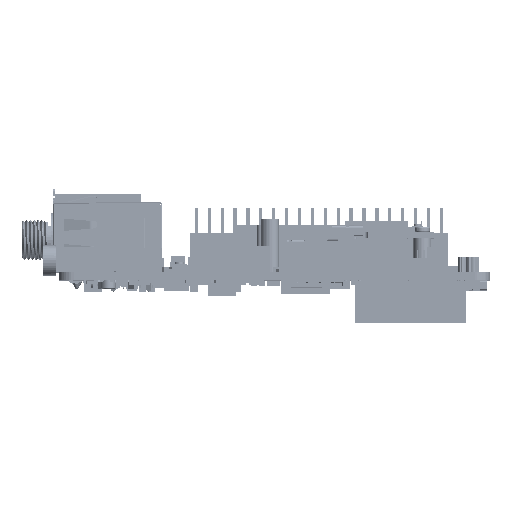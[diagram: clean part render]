
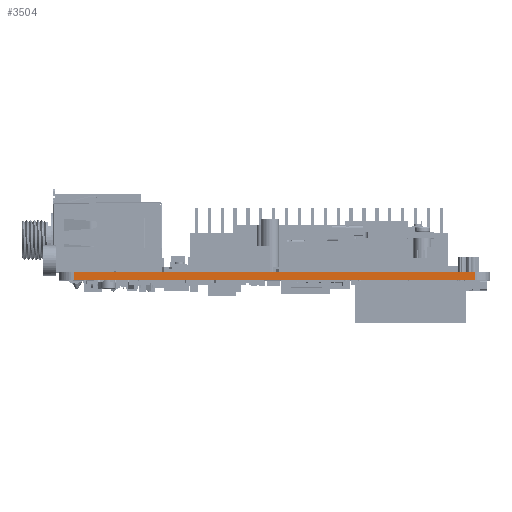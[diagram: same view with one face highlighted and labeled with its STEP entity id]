
A CAD part, top view. The second image highlights one B-rep face of the part: STEP entity #3504.
In plain terms, the highlighted planar face has unit normal (0, 0, 1).
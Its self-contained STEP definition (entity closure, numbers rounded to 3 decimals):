
#609=DIRECTION('',(1.,0.,0.));
#610=VECTOR('',#609,79.);
#611=CARTESIAN_POINT('',(-39.5,0.,62.5));
#612=LINE('',#611,#610);
#1235=DIRECTION('',(1.,0.,0.));
#1236=VECTOR('',#1235,79.);
#1237=CARTESIAN_POINT('',(-39.5,1.6,62.5));
#1238=LINE('',#1237,#1236);
#1754=DIRECTION('',(0.,-1.,0.));
#1755=VECTOR('',#1754,1.6);
#1756=CARTESIAN_POINT('',(-39.5,1.6,62.5));
#1757=LINE('',#1756,#1755);
#1761=DIRECTION('',(0.,-1.,0.));
#1762=VECTOR('',#1761,1.6);
#1763=CARTESIAN_POINT('',(39.5,1.6,62.5));
#1764=LINE('',#1763,#1762);
#2074=CARTESIAN_POINT('',(-39.5,0.,62.5));
#2075=VERTEX_POINT('',#2074);
#2076=CARTESIAN_POINT('',(-39.5,1.6,62.5));
#2077=VERTEX_POINT('',#2076);
#2079=CARTESIAN_POINT('',(39.5,0.,62.5));
#2081=VERTEX_POINT('',#2079);
#2082=CARTESIAN_POINT('',(39.5,1.6,62.5));
#2083=VERTEX_POINT('',#2082);
#3492=CARTESIAN_POINT('',(-42.5,0.,62.5));
#3493=DIRECTION('',(0.,0.,1.));
#3494=DIRECTION('',(1.,0.,0.));
#3495=AXIS2_PLACEMENT_3D('',#3492,#3493,#3494);
#3496=PLANE('',#3495);
#3498=ORIENTED_EDGE('',*,*,#3497,.F.);
#3499=ORIENTED_EDGE('',*,*,#2344,.T.);
#3500=ORIENTED_EDGE('',*,*,#3485,.T.);
#3501=ORIENTED_EDGE('',*,*,#2097,.F.);
#3502=EDGE_LOOP('',(#3498,#3499,#3500,#3501));
#3503=FACE_OUTER_BOUND('',#3502,.F.);
#2097=EDGE_CURVE('',#2075,#2081,#612,.T.);
#2344=EDGE_CURVE('',#2077,#2083,#1238,.T.);
#3485=EDGE_CURVE('',#2083,#2081,#1764,.T.);
#3497=EDGE_CURVE('',#2077,#2075,#1757,.T.);
#3504=ADVANCED_FACE('',(#3503),#3496,.T.);
